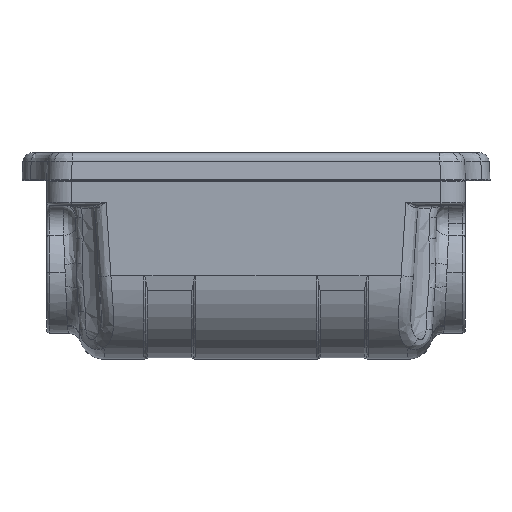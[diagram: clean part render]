
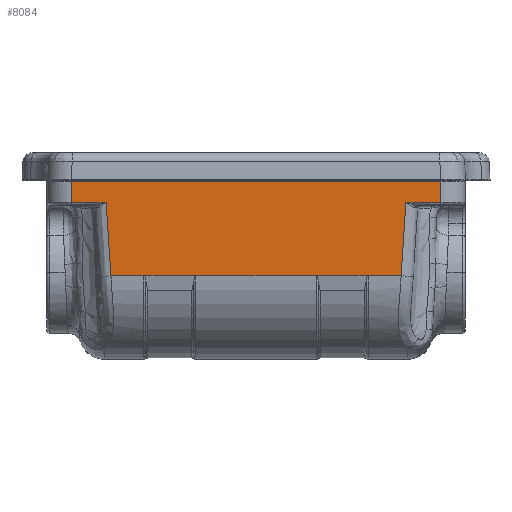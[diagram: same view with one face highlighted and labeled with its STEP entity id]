
A CAD part, top view. The second image highlights one B-rep face of the part: STEP entity #8084.
In plain terms, the highlighted planar face has unit normal (0, -0.035, 0.999).
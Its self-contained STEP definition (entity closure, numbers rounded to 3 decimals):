
#507 = EDGE_CURVE ( 'NONE', #73755, #2511, #32635, .T. ) ;
#1110 = VECTOR ( 'NONE', #31441, 1000. ) ;
#1151 = CARTESIAN_POINT ( 'NONE',  ( -23.813, 3.502, 19.611 ) ) ;
#2511 = VERTEX_POINT ( 'NONE', #21972 ) ;
#3056 = VERTEX_POINT ( 'NONE', #40025 ) ;
#4966 = CARTESIAN_POINT ( 'NONE',  ( 34., -0.489, 19.472 ) ) ;
#5300 = ORIENTED_EDGE ( 'NONE', *, *, #65895, .T. ) ;
#6048 = DIRECTION ( 'NONE',  ( 1., 0., 0. ) ) ;
#7054 = DIRECTION ( 'NONE',  ( 0., -0.999, -0.035 ) ) ;
#8084 = ADVANCED_FACE ( 'NONE', ( #34813 ), #80385, .T. ) ;
#9057 = VECTOR ( 'NONE', #85568, 1000. ) ;
#11512 = ORIENTED_EDGE ( 'NONE', *, *, #507, .T. ) ;
#12242 = VECTOR ( 'NONE', #78617, 1000. ) ;
#13028 = LINE ( 'NONE', #39049, #82728 ) ;
#13236 = EDGE_CURVE ( 'NONE', #72709, #64188, #13028, .T. ) ;
#13531 = EDGE_CURVE ( 'NONE', #25527, #67999, #32313, .T. ) ;
#17502 = CARTESIAN_POINT ( 'NONE',  ( -18.207, -0.489, 19.472 ) ) ;
#18265 = LINE ( 'NONE', #58112, #19205 ) ;
#18907 = DIRECTION ( 'NONE',  ( -1., 0., 0. ) ) ;
#19205 = VECTOR ( 'NONE', #85027, 1000. ) ;
#21128 = CARTESIAN_POINT ( 'NONE',  ( -24.334, 11.483, 19.89 ) ) ;
#21329 = LINE ( 'NONE', #66878, #42683 ) ;
#21691 = CARTESIAN_POINT ( 'NONE',  ( 34., -0.489, 19.472 ) ) ;
#21972 = CARTESIAN_POINT ( 'NONE',  ( 30., 11.483, 19.89 ) ) ;
#22283 = CARTESIAN_POINT ( 'NONE',  ( 23.566, -0.489, 19.472 ) ) ;
#23507 = EDGE_CURVE ( 'NONE', #58949, #42137, #18265, .T. ) ;
#23541 = ORIENTED_EDGE ( 'NONE', *, *, #23507, .T. ) ;
#24415 = VERTEX_POINT ( 'NONE', #17502 ) ;
#25527 = VERTEX_POINT ( 'NONE', #82478 ) ;
#25679 = CARTESIAN_POINT ( 'NONE',  ( -30., -14., 19. ) ) ;
#26279 = ORIENTED_EDGE ( 'NONE', *, *, #83182, .T. ) ;
#26654 = CARTESIAN_POINT ( 'NONE',  ( 24.334, 11.483, 19.89 ) ) ;
#27779 = LINE ( 'NONE', #21691, #75366 ) ;
#27921 = VECTOR ( 'NONE', #59079, 1000. ) ;
#28885 = ORIENTED_EDGE ( 'NONE', *, *, #13236, .T. ) ;
#30010 = CARTESIAN_POINT ( 'NONE',  ( 9.793, -0.489, 19.472 ) ) ;
#31441 = DIRECTION ( 'NONE',  ( 1., 0., 0. ) ) ;
#32211 = CARTESIAN_POINT ( 'NONE',  ( 0., 11.483, 19.89 ) ) ;
#32313 = LINE ( 'NONE', #84377, #60430 ) ;
#32635 = LINE ( 'NONE', #32211, #27921 ) ;
#34813 = FACE_OUTER_BOUND ( 'NONE', #85289, .T. ) ;
#35612 = ORIENTED_EDGE ( 'NONE', *, *, #84628, .T. ) ;
#36010 = CARTESIAN_POINT ( 'NONE',  ( -30., 11.483, 19.89 ) ) ;
#39049 = CARTESIAN_POINT ( 'NONE',  ( 0., 11.483, 19.89 ) ) ;
#39594 = LINE ( 'NONE', #64333, #9057 ) ;
#40025 = CARTESIAN_POINT ( 'NONE',  ( 18.207, -0.489, 19.472 ) ) ;
#41415 = B_SPLINE_CURVE_WITH_KNOTS ( 'NONE', 3,
 ( #21128, #60574, #1151, #54055 ),
 .UNSPECIFIED., .F., .F.,
 ( 4, 4 ),
 ( 0.003, 0.015 ),
 .UNSPECIFIED. ) ;
#42137 = VERTEX_POINT ( 'NONE', #30010 ) ;
#42683 = VECTOR ( 'NONE', #80340, 1000. ) ;
#43877 = LINE ( 'NONE', #25679, #12242 ) ;
#44003 = CARTESIAN_POINT ( 'NONE',  ( -23.566, -0.489, 19.472 ) ) ;
#44169 = CARTESIAN_POINT ( 'NONE',  ( -24.334, 11.483, 19.89 ) ) ;
#44901 = DIRECTION ( 'NONE',  ( 0., -0.035, 0.999 ) ) ;
#45698 = CARTESIAN_POINT ( 'NONE',  ( -9.793, -0.489, 19.472 ) ) ;
#46027 = ORIENTED_EDGE ( 'NONE', *, *, #79139, .T. ) ;
#47963 = ORIENTED_EDGE ( 'NONE', *, *, #13531, .T. ) ;
#48697 = CARTESIAN_POINT ( 'NONE',  ( 23.813, 3.502, 19.611 ) ) ;
#50477 = VERTEX_POINT ( 'NONE', #44003 ) ;
#50721 = VERTEX_POINT ( 'NONE', #76911 ) ;
#54055 = CARTESIAN_POINT ( 'NONE',  ( -23.566, -0.489, 19.472 ) ) ;
#54112 = EDGE_CURVE ( 'NONE', #42137, #3056, #77437, .T. ) ;
#54710 = EDGE_CURVE ( 'NONE', #64188, #50477, #41415, .T. ) ;
#55636 = CARTESIAN_POINT ( 'NONE',  ( 24.334, 11.483, 19.89 ) ) ;
#56222 = ORIENTED_EDGE ( 'NONE', *, *, #54112, .T. ) ;
#57261 = CARTESIAN_POINT ( 'NONE',  ( 34., -0.489, 19.472 ) ) ;
#58112 = CARTESIAN_POINT ( 'NONE',  ( 34., -0.489, 19.472 ) ) ;
#58660 = ORIENTED_EDGE ( 'NONE', *, *, #54710, .T. ) ;
#58949 = VERTEX_POINT ( 'NONE', #45698 ) ;
#59060 = ORIENTED_EDGE ( 'NONE', *, *, #76493, .T. ) ;
#59079 = DIRECTION ( 'NONE',  ( 1., 0., 0. ) ) ;
#60392 = B_SPLINE_CURVE_WITH_KNOTS ( 'NONE', 3,
 ( #22283, #48697, #62598, #55636 ),
 .UNSPECIFIED., .F., .F.,
 ( 4, 4 ),
 ( 0., 0.012 ),
 .UNSPECIFIED. ) ;
#60430 = VECTOR ( 'NONE', #18907, 1000. ) ;
#60574 = CARTESIAN_POINT ( 'NONE',  ( -24.067, 7.493, 19.751 ) ) ;
#62598 = CARTESIAN_POINT ( 'NONE',  ( 24.067, 7.493, 19.751 ) ) ;
#64085 = ORIENTED_EDGE ( 'NONE', *, *, #79531, .T. ) ;
#64188 = VERTEX_POINT ( 'NONE', #44169 ) ;
#64333 = CARTESIAN_POINT ( 'NONE',  ( 34., -0.489, 19.472 ) ) ;
#64580 = VECTOR ( 'NONE', #85467, 1000. ) ;
#65523 = LINE ( 'NONE', #57261, #64580 ) ;
#65895 = EDGE_CURVE ( 'NONE', #67999, #72709, #43877, .T. ) ;
#66878 = CARTESIAN_POINT ( 'NONE',  ( 30., -14., 19. ) ) ;
#67999 = VERTEX_POINT ( 'NONE', #69500 ) ;
#69500 = CARTESIAN_POINT ( 'NONE',  ( -30., 14.9, 20.009 ) ) ;
#72709 = VERTEX_POINT ( 'NONE', #36010 ) ;
#73755 = VERTEX_POINT ( 'NONE', #26654 ) ;
#75366 = VECTOR ( 'NONE', #81110, 1000. ) ;
#76493 = EDGE_CURVE ( 'NONE', #50477, #24415, #27779, .T. ) ;
#76911 = CARTESIAN_POINT ( 'NONE',  ( 23.566, -0.489, 19.472 ) ) ;
#77437 = LINE ( 'NONE', #4966, #1110 ) ;
#78617 = DIRECTION ( 'NONE',  ( 0., -0.999, -0.035 ) ) ;
#79139 = EDGE_CURVE ( 'NONE', #24415, #58949, #39594, .T. ) ;
#79531 = EDGE_CURVE ( 'NONE', #3056, #50721, #65523, .T. ) ;
#79535 = CARTESIAN_POINT ( 'NONE',  ( 0., -14., 19. ) ) ;
#80340 = DIRECTION ( 'NONE',  ( 0., 0.999, 0.035 ) ) ;
#80385 = PLANE ( 'NONE',  #83856 ) ;
#81110 = DIRECTION ( 'NONE',  ( 1., 0., 0. ) ) ;
#82478 = CARTESIAN_POINT ( 'NONE',  ( 30., 14.9, 20.009 ) ) ;
#82728 = VECTOR ( 'NONE', #6048, 1000. ) ;
#83182 = EDGE_CURVE ( 'NONE', #50721, #73755, #60392, .T. ) ;
#83856 = AXIS2_PLACEMENT_3D ( 'NONE', #79535, #44901, #7054 ) ;
#84377 = CARTESIAN_POINT ( 'NONE',  ( 0., 14.9, 20.009 ) ) ;
#84628 = EDGE_CURVE ( 'NONE', #2511, #25527, #21329, .T. ) ;
#85027 = DIRECTION ( 'NONE',  ( 1., 0., 0. ) ) ;
#85289 = EDGE_LOOP ( 'NONE', ( #26279, #11512, #35612, #47963, #5300, #28885, #58660, #59060, #46027, #23541, #56222, #64085 ) ) ;
#85467 = DIRECTION ( 'NONE',  ( 1., 0., 0. ) ) ;
#85568 = DIRECTION ( 'NONE',  ( 1., 0., 0. ) ) ;
